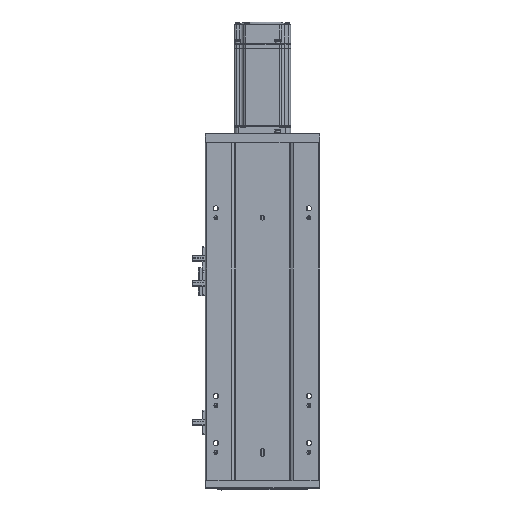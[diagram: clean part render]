
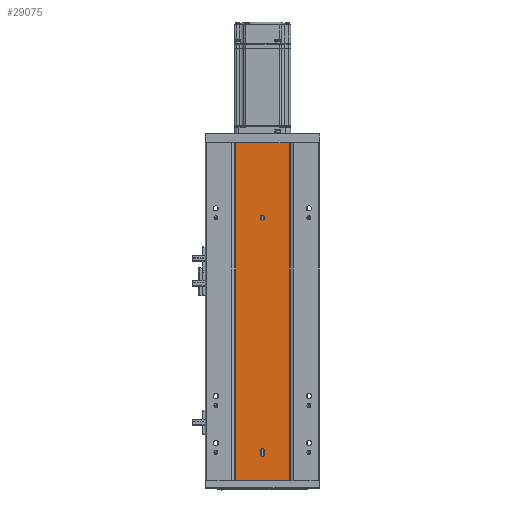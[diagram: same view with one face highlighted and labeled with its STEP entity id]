
A CAD part, front view. The second image highlights one B-rep face of the part: STEP entity #29075.
In plain terms, the highlighted planar face has unit normal (0, -1, 0).
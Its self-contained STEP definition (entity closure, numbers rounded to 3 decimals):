
#303 = CARTESIAN_POINT ( 'NONE',  ( 0., 50.307, 360. ) ) ;
#391 = VECTOR ( 'NONE', #65779, 1000. ) ;
#488 = CIRCLE ( 'NONE', #63789, 2.5 ) ;
#1228 = FACE_BOUND ( 'NONE', #42531, .T. ) ;
#1869 = AXIS2_PLACEMENT_3D ( 'NONE', #27507, #31734, #17100 ) ;
#2243 = LINE ( 'NONE', #38606, #26080 ) ;
#2909 = DIRECTION ( 'NONE',  ( 0., 0., 1. ) ) ;
#3256 = VERTEX_POINT ( 'NONE', #34259 ) ;
#3510 = DIRECTION ( 'NONE',  ( 0., 0., -1. ) ) ;
#5067 = EDGE_CURVE ( 'NONE', #12981, #19943, #64996, .T. ) ;
#5632 = CARTESIAN_POINT ( 'NONE',  ( 137.498, 50.307, 31.5 ) ) ;
#5937 = CARTESIAN_POINT ( 'NONE',  ( 134.998, 50.307, 31.5 ) ) ;
#7209 = CARTESIAN_POINT ( 'NONE',  ( 134.998, 50.307, 277.5 ) ) ;
#8204 = ORIENTED_EDGE ( 'NONE', *, *, #17955, .F. ) ;
#10138 = CARTESIAN_POINT ( 'NONE',  ( 132.498, 50.307, 31.5 ) ) ;
#10272 = PLANE ( 'NONE',  #31584 ) ;
#11053 = DIRECTION ( 'NONE',  ( 1., 0., 0. ) ) ;
#11514 = EDGE_CURVE ( 'NONE', #38617, #55207, #59945, .T. ) ;
#12788 = ORIENTED_EDGE ( 'NONE', *, *, #23948, .F. ) ;
#12981 = VERTEX_POINT ( 'NONE', #10138 ) ;
#14815 = CARTESIAN_POINT ( 'NONE',  ( 163.998, 50.307, 360. ) ) ;
#15258 = EDGE_LOOP ( 'NONE', ( #33724, #35741 ) ) ;
#15395 = EDGE_CURVE ( 'NONE', #30772, #17751, #50862, .T. ) ;
#15745 = AXIS2_PLACEMENT_3D ( 'NONE', #57332, #26847, #47511 ) ;
#16042 = VERTEX_POINT ( 'NONE', #28746 ) ;
#17100 = DIRECTION ( 'NONE',  ( 0., 0., -1. ) ) ;
#17751 = VERTEX_POINT ( 'NONE', #58094 ) ;
#17955 = EDGE_CURVE ( 'NONE', #16042, #49937, #36897, .T. ) ;
#18564 = CIRCLE ( 'NONE', #15745, 2.5 ) ;
#19943 = VERTEX_POINT ( 'NONE', #61225 ) ;
#20180 = ORIENTED_EDGE ( 'NONE', *, *, #64817, .F. ) ;
#20806 = LINE ( 'NONE', #33438, #49433 ) ;
#21621 = CARTESIAN_POINT ( 'NONE',  ( 134.998, 50.307, 28.5 ) ) ;
#23142 = CARTESIAN_POINT ( 'NONE',  ( 137.498, 50.307, 31.5 ) ) ;
#23157 = CARTESIAN_POINT ( 'NONE',  ( 137.498, 50.307, 28.5 ) ) ;
#23948 = EDGE_CURVE ( 'NONE', #55207, #12981, #488, .T. ) ;
#25191 = VECTOR ( 'NONE', #26317, 1000. ) ;
#25854 = DIRECTION ( 'NONE',  ( 0., 1., 0. ) ) ;
#26080 = VECTOR ( 'NONE', #3510, 1000. ) ;
#26317 = DIRECTION ( 'NONE',  ( 0., 0., -1. ) ) ;
#26847 = DIRECTION ( 'NONE',  ( 0., -1., 0. ) ) ;
#27507 = CARTESIAN_POINT ( 'NONE',  ( 134.998, 50.307, 280. ) ) ;
#28746 = CARTESIAN_POINT ( 'NONE',  ( 105.998, 50.307, 360. ) ) ;
#29075 = ADVANCED_FACE ( 'NONE', ( #29801, #1228, #65680 ), #10272, .F. ) ;
#29801 = FACE_BOUND ( 'NONE', #15258, .T. ) ;
#30138 = CARTESIAN_POINT ( 'NONE',  ( 0., 50.307, 360. ) ) ;
#30273 = DIRECTION ( 'NONE',  ( -1., 0., 0. ) ) ;
#30772 = VERTEX_POINT ( 'NONE', #7209 ) ;
#31090 = EDGE_CURVE ( 'NONE', #16042, #3256, #37603, .T. ) ;
#31431 = CARTESIAN_POINT ( 'NONE',  ( 163.998, 50.307, 0. ) ) ;
#31584 = AXIS2_PLACEMENT_3D ( 'NONE', #303, #25854, #30273 ) ;
#31731 = EDGE_CURVE ( 'NONE', #3256, #34468, #20806, .T. ) ;
#31734 = DIRECTION ( 'NONE',  ( 0., -1., 0. ) ) ;
#32739 = VECTOR ( 'NONE', #61868, 1000. ) ;
#33356 = EDGE_CURVE ( 'NONE', #19943, #38617, #57051, .T. ) ;
#33438 = CARTESIAN_POINT ( 'NONE',  ( 0., 50.307, 0. ) ) ;
#33724 = ORIENTED_EDGE ( 'NONE', *, *, #15395, .F. ) ;
#34259 = CARTESIAN_POINT ( 'NONE',  ( 105.998, 50.307, 0. ) ) ;
#34468 = VERTEX_POINT ( 'NONE', #31431 ) ;
#35741 = ORIENTED_EDGE ( 'NONE', *, *, #35956, .F. ) ;
#35956 = EDGE_CURVE ( 'NONE', #17751, #30772, #18564, .T. ) ;
#36897 = LINE ( 'NONE', #30138, #391 ) ;
#37603 = LINE ( 'NONE', #45369, #32739 ) ;
#38606 = CARTESIAN_POINT ( 'NONE',  ( 163.998, 50.307, 360. ) ) ;
#38617 = VERTEX_POINT ( 'NONE', #23157 ) ;
#41506 = DIRECTION ( 'NONE',  ( 0., -1., 0. ) ) ;
#41873 = CARTESIAN_POINT ( 'NONE',  ( 132.498, 50.307, 31.5 ) ) ;
#42531 = EDGE_LOOP ( 'NONE', ( #48042, #12788, #51881, #43880 ) ) ;
#43191 = VECTOR ( 'NONE', #2909, 1000. ) ;
#43880 = ORIENTED_EDGE ( 'NONE', *, *, #33356, .F. ) ;
#45369 = CARTESIAN_POINT ( 'NONE',  ( 105.998, 50.307, 360. ) ) ;
#47153 = DIRECTION ( 'NONE',  ( 0., -1., 0. ) ) ;
#47511 = DIRECTION ( 'NONE',  ( 0., 0., -1. ) ) ;
#47945 = AXIS2_PLACEMENT_3D ( 'NONE', #21621, #47153, #57206 ) ;
#48042 = ORIENTED_EDGE ( 'NONE', *, *, #5067, .F. ) ;
#49433 = VECTOR ( 'NONE', #59064, 1000. ) ;
#49646 = ORIENTED_EDGE ( 'NONE', *, *, #31090, .T. ) ;
#49937 = VERTEX_POINT ( 'NONE', #14815 ) ;
#50862 = CIRCLE ( 'NONE', #1869, 2.5 ) ;
#51881 = ORIENTED_EDGE ( 'NONE', *, *, #11514, .F. ) ;
#53765 = EDGE_LOOP ( 'NONE', ( #64380, #20180, #8204, #49646 ) ) ;
#55207 = VERTEX_POINT ( 'NONE', #5632 ) ;
#57051 = CIRCLE ( 'NONE', #47945, 2.5 ) ;
#57206 = DIRECTION ( 'NONE',  ( 1., 0., 0. ) ) ;
#57332 = CARTESIAN_POINT ( 'NONE',  ( 134.998, 50.307, 280. ) ) ;
#58094 = CARTESIAN_POINT ( 'NONE',  ( 134.998, 50.307, 282.5 ) ) ;
#59064 = DIRECTION ( 'NONE',  ( 1., 0., 0. ) ) ;
#59945 = LINE ( 'NONE', #23142, #43191 ) ;
#61225 = CARTESIAN_POINT ( 'NONE',  ( 132.498, 50.307, 28.5 ) ) ;
#61868 = DIRECTION ( 'NONE',  ( 0., 0., -1. ) ) ;
#63789 = AXIS2_PLACEMENT_3D ( 'NONE', #5937, #41506, #11053 ) ;
#64380 = ORIENTED_EDGE ( 'NONE', *, *, #31731, .T. ) ;
#64817 = EDGE_CURVE ( 'NONE', #49937, #34468, #2243, .T. ) ;
#64996 = LINE ( 'NONE', #41873, #25191 ) ;
#65680 = FACE_OUTER_BOUND ( 'NONE', #53765, .T. ) ;
#65779 = DIRECTION ( 'NONE',  ( 1., 0., 0. ) ) ;
